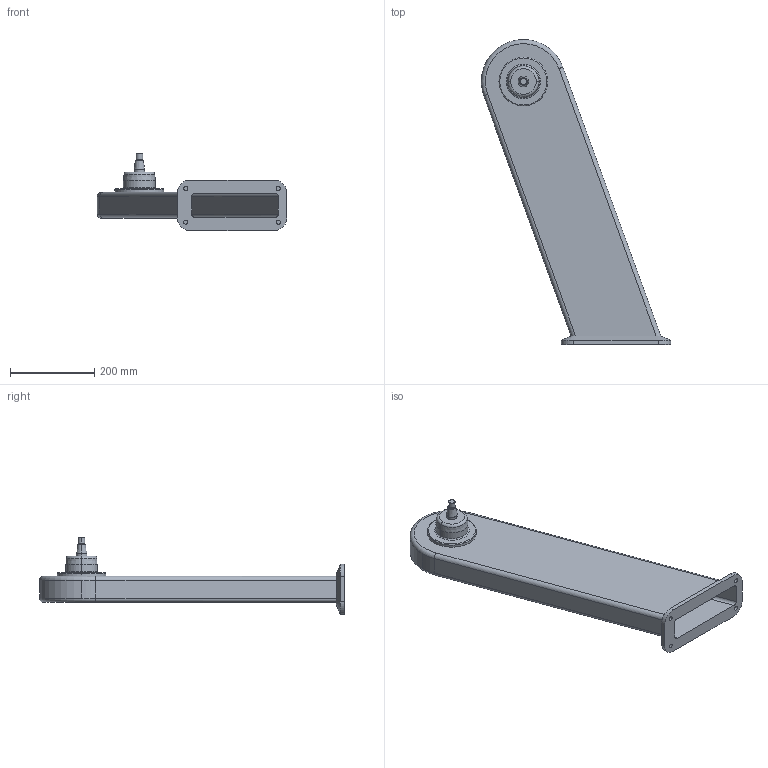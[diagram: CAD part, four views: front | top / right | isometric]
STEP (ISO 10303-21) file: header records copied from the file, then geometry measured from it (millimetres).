
FILE_DESCRIPTION (( 'STEP AP214' ), '1' );
FILE_NAME ('WP800_H625_-20.STEP', '2014-06-26T12:20:14', ( '' ), ( '' ), 'SwSTEP 2.0', 'SolidWorks 2014', '' );
FILE_SCHEMA (( 'AUTOMOTIVE_DESIGN' ));
Length unit declared in the file: millimetre
Products named in the file (1): WP800_H625_-20
Bounding box: 450.2 x 725 x 183.29 mm (x, y, z)
Volume: 1694663.8 mm3; surface area: 808299 mm2
Topology: 1 solids, 1 shells, 91 faces, 202 edges, 122 vertices
Faces by surface type: cylinder 38, plane 27, cone 16, torus 10
Entity records: 2546 total; most frequent: DIRECTION 470, CARTESIAN_POINT 452, ORIENTED_EDGE 404, EDGE_CURVE 202, AXIS2_PLACEMENT_3D 188, VERTEX_POINT 122, EDGE_LOOP 102, CIRCLE 96
